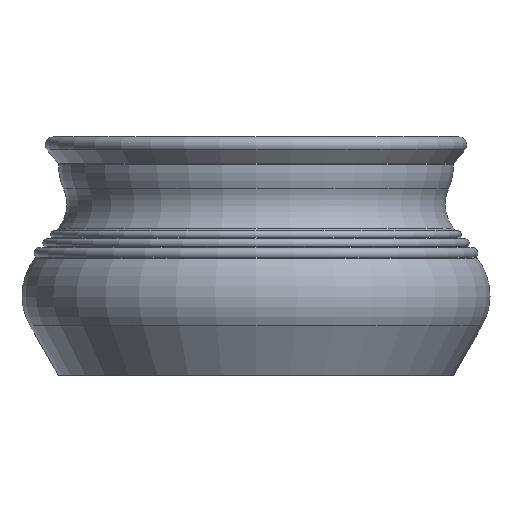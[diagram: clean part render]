
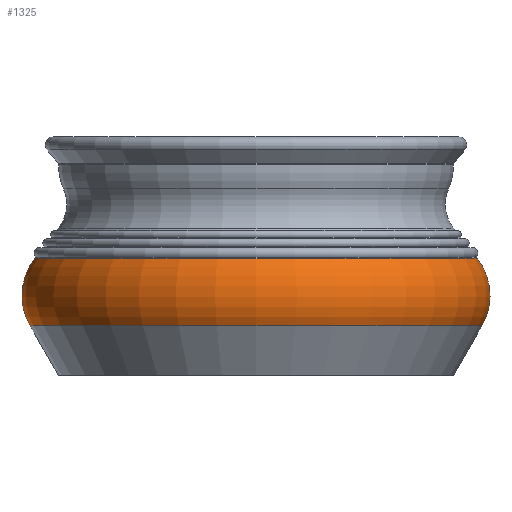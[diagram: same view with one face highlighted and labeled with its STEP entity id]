
A CAD part, front view. The second image highlights one B-rep face of the part: STEP entity #1325.
In plain terms, the highlighted toroidal (fillet/blend) face has major radius 109.261 mm and minor radius 38.099 mm.
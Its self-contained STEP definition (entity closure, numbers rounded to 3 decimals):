
#22=TOROIDAL_SURFACE('',#1505,109.261,38.099);
#166=FACE_OUTER_BOUND('',#284,.T.);
#284=EDGE_LOOP('',(#1208,#1209,#1210,#1211));
#526=CIRCLE('',#1467,142.243);
#549=CIRCLE('',#1506,139.249);
#550=CIRCLE('',#1507,38.099);
#653=VERTEX_POINT('',#2240);
#669=VERTEX_POINT('',#2303);
#818=EDGE_CURVE('',#653,#653,#526,.T.);
#849=EDGE_CURVE('',#669,#669,#549,.T.);
#850=EDGE_CURVE('',#669,#653,#550,.T.);
#1208=ORIENTED_EDGE('',*,*,#849,.F.);
#1209=ORIENTED_EDGE('',*,*,#850,.T.);
#1210=ORIENTED_EDGE('',*,*,#818,.T.);
#1211=ORIENTED_EDGE('',*,*,#850,.F.);
#1325=ADVANCED_FACE('',(#166),#22,.T.);
#1467=AXIS2_PLACEMENT_3D('',#2241,#1837,#1838);
#1505=AXIS2_PLACEMENT_3D('',#2302,#1921,#1922);
#1506=AXIS2_PLACEMENT_3D('',#2304,#1923,#1924);
#1507=AXIS2_PLACEMENT_3D('',#2305,#1925,#1926);
#1837=DIRECTION('center_axis',(0.,0.,1.));
#1838=DIRECTION('ref_axis',(1.,0.,0.));
#1921=DIRECTION('center_axis',(0.,0.,1.));
#1922=DIRECTION('ref_axis',(1.,0.,0.));
#1923=DIRECTION('center_axis',(0.,0.,1.));
#1924=DIRECTION('ref_axis',(1.,0.,0.));
#1925=DIRECTION('center_axis',(0.,-1.,0.));
#1926=DIRECTION('ref_axis',(-1.,0.,0.));
#2240=CARTESIAN_POINT('',(-142.243,0.,30.929));
#2241=CARTESIAN_POINT('Origin',(0.,0.,30.929));
#2302=CARTESIAN_POINT('Origin',(0.,0.,50.));
#2303=CARTESIAN_POINT('',(-139.249,0.,73.5));
#2304=CARTESIAN_POINT('Origin',(0.,0.,73.5));
#2305=CARTESIAN_POINT('Origin',(-109.261,0.,
50.));
